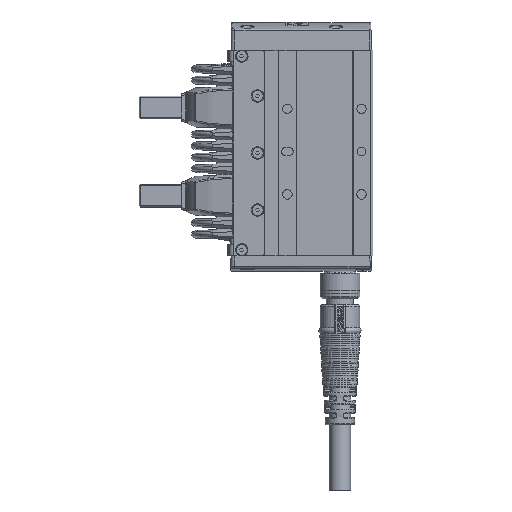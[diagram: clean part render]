
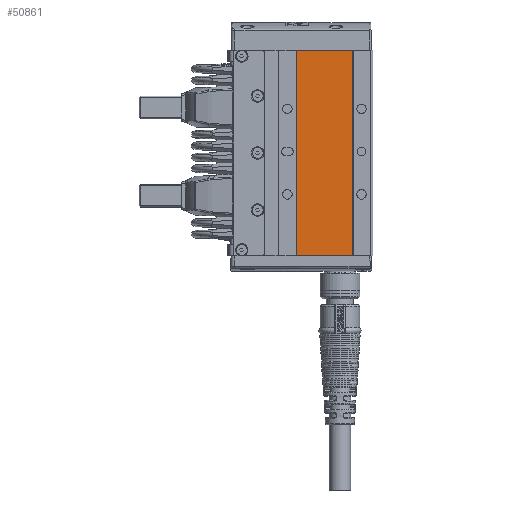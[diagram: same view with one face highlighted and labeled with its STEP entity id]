
A CAD part, left-side view. The second image highlights one B-rep face of the part: STEP entity #50861.
In plain terms, the highlighted planar face has unit normal (-1, 0, 0).
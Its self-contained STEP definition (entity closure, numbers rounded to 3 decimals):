
#8369=LINE('',#129312,#11517);
#8387=LINE('',#129366,#11535);
#8407=LINE('',#129404,#11555);
#8408=LINE('',#129406,#11556);
#11517=VECTOR('',#68939,1000.);
#11535=VECTOR('',#68987,1000.);
#11555=VECTOR('',#69013,1000.);
#11556=VECTOR('',#69016,1000.);
#14224=FACE_OUTER_BOUND('',#17199,.T.);
#17199=EDGE_LOOP('',(#46788,#46789,#46790,#46791));
#24744=VERTEX_POINT('',#129309);
#24745=VERTEX_POINT('',#129311);
#24765=VERTEX_POINT('',#129363);
#24766=VERTEX_POINT('',#129365);
#32099=EDGE_CURVE('',#24745,#24744,#8369,.T.);
#32126=EDGE_CURVE('',#24765,#24766,#8387,.T.);
#32147=EDGE_CURVE('',#24765,#24745,#8407,.T.);
#32148=EDGE_CURVE('',#24766,#24744,#8408,.T.);
#46788=ORIENTED_EDGE('',*,*,#32099,.T.);
#46789=ORIENTED_EDGE('',*,*,#32148,.F.);
#46790=ORIENTED_EDGE('',*,*,#32126,.F.);
#46791=ORIENTED_EDGE('',*,*,#32147,.T.);
#48202=PLANE('',#56023);
#50861=ADVANCED_FACE('',(#14224),#48202,.F.);
#56023=AXIS2_PLACEMENT_3D('',#129405,#69014,#69015);
#68939=DIRECTION('',(0.,-1.,0.));
#68987=DIRECTION('',(0.,-1.,0.));
#69013=DIRECTION('',(0.,0.,-1.));
#69014=DIRECTION('center_axis',(1.,0.,0.));
#69015=DIRECTION('ref_axis',(0.,1.,0.));
#69016=DIRECTION('',(0.,0.,-1.));
#129309=CARTESIAN_POINT('',(-15.2,6.997,-36.5));
#129311=CARTESIAN_POINT('',(-15.2,26.65,-36.5));
#129312=CARTESIAN_POINT('',(-15.2,26.65,-36.5));
#129363=CARTESIAN_POINT('',(-15.2,26.65,35.5));
#129365=CARTESIAN_POINT('',(-15.2,6.997,35.5));
#129366=CARTESIAN_POINT('',(-15.2,26.65,35.5));
#129404=CARTESIAN_POINT('',(-15.2,26.65,35.5));
#129405=CARTESIAN_POINT('Origin',(-15.2,26.65,35.5));
#129406=CARTESIAN_POINT('',(-15.2,6.997,35.5));
